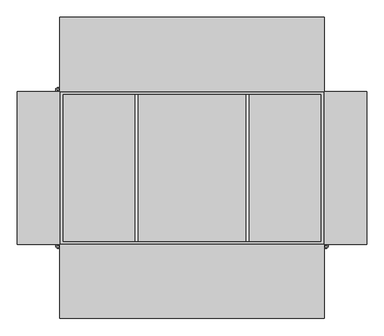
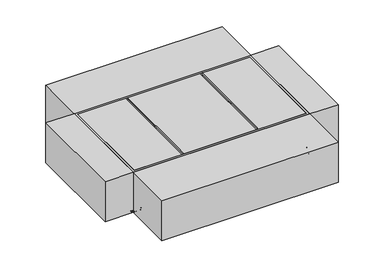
"""IFC4 building model written with IfcOpenShell, lengths in millimetres: proxy geometry, EMC_VEN_CLEVA 2.0_Right_V2 : CLEVA 3000 2.0 Right."""

from ifc_helpers import new_model, si_unit, frame, origin, origin_with_axes, place, context, project, spatial, polyline, circle_curve, ellipse_curve, outline, extrude, faceted_brep, source, transform, mapped, element, save
from ifc_brep_helpers import plane_surface, cylinder_surface, revolved_surface, advanced_brep


def mechanical_equipment_ccacce41(model_context):
    return source(origin(), model_context, "Body", "SolidModel", [
        advanced_brep(
        [(-1255.9879885, 610.1499884, 32.4276212), (-1274.1500152, 610.1499884, 32.4276212), (-1274.1500152, 610.1499884, 29.4276272), (-1255.9939883, 610.1499884, 29.4276272), (-1252.999994, 610.1499884, 26.4336329), (-1252.999994, 610.1499884, 2.850007), (-1246.9879811, 610.1499884, -3.149981), (-1223.0023908, 610.1499884, -3.149981), (-1223.0023908, 610.1499884, -0.149987), (-1247.9960038, 610.1499884, -0.149987), (-1250.0, 610.1499884, 1.8540092), (-1250.0, 610.1499884, 26.4156337), (-1286.1499912, 622.1499898, 29.4276272), (-1286.1499912, 622.1499898, 32.4276212), (-1286.1499912, 749.1499898, 32.4276212), (-1286.1499912, 749.1499898, 29.4276272), (-1135.1500138, 730.9879885, 32.4276212), (-1135.1500138, 749.1499898, 32.4276212), (-1147.1500152, 761.1499912, 32.4276212), (-1274.1500152, 761.1499912, 32.4276212), (-1255.9879885, 730.9879885, 32.4276212), (-1160.6500136, 752.6500082, 32.4276212), (-1155.6499982, 752.6500082, 32.4276212), (-1155.6619977, 740.6500068, 32.4276212), (-1160.6380141, 740.6500068, 32.4276212), (-1269.8972231, 748.4322052, 32.4276212), (-1261.4119618, 739.9469136, 32.4276212), (-1264.9515195, 736.4073559, 32.4276212), (-1273.4413867, 744.888067, 32.4276212), (-1265.6500068, 635.6379887, 32.4276212), (-1265.6500068, 630.6379987, 32.4276212), (-1277.6499948, 630.6499982, 32.4276212), (-1277.6500082, 635.6499882, 32.4276212), (-1250.0, 725.0, 26.4156337), (-1250.0, 725.0, 1.8540092), (-1247.9960038, 722.9960038, -0.149987), (-1223.0023908, 698.0023908, -0.149987), (-1135.1500138, 698.0023908, -0.149987), (-1135.1500138, 722.9960038, -0.149987), (-1223.0023908, 698.0023908, -3.149981), (-1246.9879811, 721.9879811, -3.149981), (-1135.1500138, 721.9879811, -3.149981), (-1135.1500138, 698.0023908, -3.149981), (-1252.9999806, 727.999994, 2.850007), (-1252.999994, 727.999994, 26.4336329), (-1255.9939883, 730.9939883, 29.4276272), (-1274.1500152, 761.1499912, 29.4276272), (-1147.1500152, 761.1499912, 29.4276272), (-1135.1500138, 749.1499898, 29.4276272), (-1135.1500138, 730.9939883, 29.4276272), (-1160.6380141, 740.6500068, 29.4276272), (-1155.6619977, 740.6500068, 29.4276272), (-1155.6499982, 752.6499948, 29.4276272), (-1160.6500136, 752.6500082, 29.4276272), (-1273.4413867, 744.888067, 29.4276272), (-1264.9515297, 736.4073661, 29.4276272), (-1261.4119618, 739.9469136, 29.4276272), (-1269.8972231, 748.4322052, 29.4276272), (-1277.6500082, 635.6499882, 29.4276272), (-1277.6500082, 630.6499982, 29.4276272), (-1265.6500068, 630.6379987, 29.4276272), (-1265.6500068, 635.6379887, 29.4276272), (-1135.1500138, 727.9999806, 2.850007), (-1135.1500138, 727.999994, 26.4336329), (-1135.1500138, 725.0, 26.4156337), (-1135.1500138, 725.0, 1.8540092)],
        [
            (0, 1),
            (1, 2),
            (2, 3),
            (3, 4, circle_curve(frame((-1255.999988, 610.1499884, 26.4276332), z_axis=(0.0, 1.0, 0.0), x_axis=(1.0, 0.0, 0.0)), 3.0)),
            (4, 5),
            (5, 6, circle_curve(frame((-1246.9999806, 610.1499884, 2.850007), z_axis=(0.0, -1.0, 0.0), x_axis=(1.0, 0.0, 0.0)), 6.0)),
            (6, 7),
            (7, 8),
            (8, 9),
            (9, 10, circle_curve(frame((-1248.000004, 610.1499884, 1.850009), z_axis=(0.0, 1.0, 0.0), x_axis=(1.0, 0.0, 0.0)), 2.0)),
            (10, 11),
            (11, 0, circle_curve(frame((-1255.999988, 610.1499884, 26.4276332), z_axis=(0.0, -1.0, 0.0), x_axis=(1.0, 0.0, 0.0)), 6.0)),
            (12, 13),
            (13, 14),
            (14, 15),
            (15, 12),
            (16, 17),
            (17, 18),
            (18, 19),
            (19, 14),
            (13, 1),
            (0, 20),
            (20, 16),
            (21, 22),
            (22, 23, circle_curve(frame((-1155.6499982, 746.6499948, 32.4276212), z_axis=(0.0, 0.0, -1.0), x_axis=(1.0, 0.0, 0.0)), 6.0)),
            (23, 24),
            (24, 21, circle_curve(frame((-1160.6500136, 746.6499948, 32.4276212), z_axis=(0.0, 0.0, -1.0), x_axis=(1.0, 0.0, 0.0)), 6.0)),
            (25, 26, circle_curve(frame((-1265.6500068, 744.194145, 32.4276212), z_axis=(0.0, 0.0, -1.0), x_axis=(1.0, 0.0, 0.0)), 6.0)),
            (26, 27),
            (27, 28, circle_curve(frame((-1269.1941704, 740.6500068, 32.4276212), z_axis=(0.0, 0.0, -1.0), x_axis=(1.0, 0.0, 0.0)), 6.0)),
            (28, 25),
            (29, 30),
            (30, 31, circle_curve(frame((-1271.6499948, 630.6499982, 32.4276212), z_axis=(0.0, 0.0, -1.0), x_axis=(1.0, 0.0, 0.0)), 6.0)),
            (31, 32),
            (32, 29, circle_curve(frame((-1271.6499948, 635.6499882, 32.4276212), z_axis=(0.0, 0.0, -1.0), x_axis=(1.0, 0.0, 0.0)), 6.0)),
            (11, 33),
            (33, 20, ellipse_curve(frame((-1255.999988, 730.999988, 26.4276332), z_axis=(-0.7071067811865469, -0.707106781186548, 0.0), x_axis=(0.7071067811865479, -0.7071067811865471, 0.0)), 8.4852814, 6.0)),
            (10, 34),
            (34, 33),
            (9, 35),
            (35, 34, ellipse_curve(frame((-1248.000004, 723.000004, 1.850009), z_axis=(0.7071067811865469, 0.707106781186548, 0.0), x_axis=(-0.7071067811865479, 0.7071067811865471, 0.0)), 2.8284271, 2.0)),
            (8, 36),
            (36, 37),
            (37, 38),
            (38, 35),
            (7, 39),
            (39, 36),
            (6, 40),
            (40, 41),
            (41, 42),
            (42, 39),
            (5, 43),
            (43, 40, ellipse_curve(frame((-1246.9999806, 721.9999806, 2.850007), z_axis=(-0.7071067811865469, -0.707106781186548, 0.0), x_axis=(0.7071067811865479, -0.7071067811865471, 0.0)), 8.4852814, 6.0)),
            (4, 44),
            (44, 43),
            (3, 45),
            (45, 44, ellipse_curve(frame((-1255.999988, 730.999988, 26.4276332), z_axis=(0.7071067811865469, 0.707106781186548, 0.0), x_axis=(-0.7071067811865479, 0.7071067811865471, 0.0)), 4.2426407, 3.0)),
            (2, 12),
            (15, 46),
            (46, 47),
            (47, 48),
            (48, 49),
            (49, 45),
            (50, 51),
            (51, 52, circle_curve(frame((-1155.6499982, 746.6499948, 29.4276272), z_axis=(0.0, 0.0, 1.0), x_axis=(1.0, 0.0, 0.0)), 6.0)),
            (52, 53),
            (53, 50, circle_curve(frame((-1160.6500136, 746.6499948, 29.4276272), z_axis=(0.0, 0.0, 1.0), x_axis=(1.0, 0.0, 0.0)), 6.0)),
            (54, 55, circle_curve(frame((-1269.1941704, 740.6500068, 29.4276272), z_axis=(0.0, 0.0, 1.0), x_axis=(1.0, 0.0, 0.0)), 6.0)),
            (55, 56),
            (56, 57, circle_curve(frame((-1265.6500068, 744.194145, 29.4276272), z_axis=(0.0, 0.0, 1.0), x_axis=(1.0, 0.0, 0.0)), 6.0)),
            (57, 54),
            (58, 59),
            (59, 60, circle_curve(frame((-1271.6499948, 630.6499982, 29.4276272), z_axis=(0.0, 0.0, 1.0), x_axis=(1.0, 0.0, 0.0)), 6.0)),
            (60, 61),
            (61, 58, circle_curve(frame((-1271.6499948, 635.6499882, 29.4276272), z_axis=(0.0, 0.0, 1.0), x_axis=(1.0, 0.0, 0.0)), 6.0)),
            (37, 42),
            (41, 62, circle_curve(frame((-1135.1500138, 721.9999806, 2.850007), z_axis=(1.0, 0.0, 0.0), x_axis=(0.0, -1.0, 0.0)), 6.0)),
            (62, 63),
            (63, 49, circle_curve(frame((-1135.1500138, 730.999988, 26.4276332), z_axis=(-1.0, 0.0, 0.0), x_axis=(0.0, -1.0, 0.0)), 3.0)),
            (48, 17),
            (16, 64, circle_curve(frame((-1135.1500138, 730.999988, 26.4276332), z_axis=(1.0, 0.0, 0.0), x_axis=(0.0, -1.0, 0.0)), 6.0)),
            (64, 65),
            (65, 38, circle_curve(frame((-1135.1500138, 723.000004, 1.850009), z_axis=(-1.0, 0.0, 0.0), x_axis=(0.0, -1.0, 0.0)), 2.0)),
            (18, 47),
            (46, 19),
            (33, 64),
            (34, 65),
            (43, 62),
            (44, 63),
            (53, 21),
            (24, 50),
            (52, 22),
            (51, 23),
            (57, 25),
            (28, 54),
            (56, 26),
            (55, 27),
            (61, 29),
            (32, 58),
            (60, 30),
            (59, 31),
        ],
        [
            plane_surface(frame((-1250.0, 610.1499884, 0.0), z_axis=(0.0, -1.0, 0.0), x_axis=(0.0, 0.0, 1.0))),
            plane_surface(frame((-1286.1499912, 610.1499884, 29.4276272), z_axis=(-1.0, 0.0, 0.0), x_axis=(0.0, 1.0, 0.0))),
            plane_surface(frame((-1286.1499912, 610.1499884, 32.4276212), z_axis=(0.0, 0.0, 1.0), x_axis=(0.0, 1.0, 0.0))),
            cylinder_surface(frame((-1255.999988, 610.1499884, 26.4276332), z_axis=(0.0, -1.0, 0.0), x_axis=(1.0, 0.0, 0.0)), 6.0),
            plane_surface(frame((-1250.0, 610.1499884, 26.4156337), z_axis=(1.0, 0.0, 0.0), x_axis=(0.0, 1.0, 0.0))),
            revolved_surface(polyline([(-1246.000004, 725.0000039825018, 1.850009), (-1246.000004, 610.1499884, 1.850009)]), (-1248.000004, 610.1499884, 1.850009), (0.0, 1.0, 0.0)),
            plane_surface(frame((-1247.9960038, 610.1499884, -0.149987), z_axis=(0.0, 0.0, 1.0), x_axis=(0.0, 1.0, 0.0))),
            plane_surface(frame((-1223.0023908, 610.1499884, -0.149987), z_axis=(1.0, 0.0, 0.0), x_axis=(0.0, 1.0, 0.0))),
            plane_surface(frame((-1223.0023908, 610.1499884, -3.149981), z_axis=(0.0, 0.0, -1.0), x_axis=(0.0, 1.0, 0.0))),
            cylinder_surface(frame((-1246.9999806, 610.1499884, 2.850007), z_axis=(0.0, -1.0, 0.0), x_axis=(1.0, 0.0, 0.0)), 6.0),
            plane_surface(frame((-1252.999994, 610.1499884, 2.850007), z_axis=(-1.0, 0.0, 0.0), x_axis=(0.0, 1.0, 0.0))),
            revolved_surface(polyline([(-1252.999988, 733.999988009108, 26.4276332), (-1252.999988, 610.1499884, 26.4276332)]), (-1255.999988, 610.1499884, 26.4276332), (0.0, 1.0, 0.0)),
            plane_surface(frame((-1255.9939883, 610.1499884, 29.4276272), z_axis=(0.0, 0.0, -1.0), x_axis=(0.0, 1.0, 0.0))),
            plane_surface(frame((-1135.1500138, 725.0, 0.0), z_axis=(1.0, 0.0, 0.0), x_axis=(0.0, 0.0, 1.0))),
            plane_surface(frame((-1286.1499912, 761.1499912, 29.4276272), z_axis=(0.0, 1.0, 0.0), x_axis=(1.0, 0.0, 0.0))),
            cylinder_surface(frame((-1250.0, 730.999988, 26.4276332), z_axis=(-1.0, 0.0, 0.0), x_axis=(0.0, -1.0, 0.0)), 6.0),
            plane_surface(frame((-1250.0, 725.0, 26.4156337), z_axis=(0.0, -1.0, 0.0), x_axis=(1.0, 0.0, 0.0))),
            revolved_surface(polyline([(-1135.1500138, 721.000004, 1.850009), (-1250.0000039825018, 721.000004, 1.850009)]), (-1250.0, 723.000004, 1.850009), (1.0, 0.0, 0.0)),
            plane_surface(frame((-1223.0023908, 698.0023908, -0.149987), z_axis=(0.0, -1.0, 0.0), x_axis=(1.0, 0.0, 0.0))),
            cylinder_surface(frame((-1250.0, 721.9999806, 2.850007), z_axis=(-1.0, 0.0, 0.0), x_axis=(0.0, -1.0, 0.0)), 6.0),
            plane_surface(frame((-1252.999994, 727.999994, 2.850007), z_axis=(0.0, 1.0, 0.0), x_axis=(1.0, 0.0, 0.0))),
            revolved_surface(polyline([(-1135.1500138, 727.999988, 26.4276332), (-1258.9999880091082, 727.999988, 26.4276332)]), (-1250.0, 730.999988, 26.4276332), (1.0, 0.0, 0.0)),
            plane_surface(frame((-1286.1499912, 622.1499898, 250.0), z_axis=(-0.7071075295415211, -0.7071060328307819, 0.0), x_axis=(0.0, 0.0, -1.0))),
            plane_surface(frame((-1123.432152, 737.432128, 250.0), z_axis=(0.7071067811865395, 0.7071067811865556, 0.0), x_axis=(0.0, 0.0, -1.0))),
            plane_surface(frame((-1274.1500152, 761.1499912, 250.0), z_axis=(-0.7071075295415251, 0.7071060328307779, 0.0), x_axis=(0.0, 0.0, -1.0))),
            revolved_surface(polyline([(-1154.6500136, 746.6499948, 32.4276212), (-1154.6500136, 746.6499948, 29.4276272)]), (-1160.6500136, 746.6499948, 0.0), (0.0, 0.0, 1.0)),
            plane_surface(frame((-1160.6500136, 752.6500082, 250.0), z_axis=(0.0, -1.0, 0.0), x_axis=(0.0, 0.0, -1.0))),
            revolved_surface(polyline([(-1149.6499982, 746.6499948, 32.4276212), (-1149.6499982, 746.6499948, 29.4276272)]), (-1155.6499982, 746.6499948, 0.0), (0.0, 0.0, 1.0)),
            plane_surface(frame((-1155.6619977, 740.6500068, 250.0), z_axis=(0.0, 1.0, 0.0), x_axis=(0.0, 0.0, -1.0))),
            plane_surface(frame((-1273.4413867, 744.888067, 250.0), z_axis=(0.7071042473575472, -0.7071093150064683, 0.0), x_axis=(0.0, 0.0, -1.0))),
            revolved_surface(polyline([(-1259.6500068, 744.194145, 32.4276212), (-1259.6500068, 744.194145, 29.4276272)]), (-1265.6500068, 744.194145, 0.0), (0.0, 0.0, 1.0)),
            plane_surface(frame((-1261.4119618, 739.9469136, 250.0), z_axis=(-0.7071067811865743, 0.7071067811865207, 0.0), x_axis=(0.0, 0.0, -1.0))),
            revolved_surface(polyline([(-1263.1941704, 740.6500068, 32.4276212), (-1263.1941704, 740.6500068, 29.4276272)]), (-1269.1941704, 740.6500068, 0.0), (0.0, 0.0, 1.0)),
            revolved_surface(polyline([(-1265.6499948, 635.6499882, 32.4276212), (-1265.6499948, 635.6499882, 29.4276272)]), (-1271.6499948, 635.6499882, 0.0), (0.0, 0.0, 1.0)),
            plane_surface(frame((-1265.6500068, 635.6379887, 250.0), z_axis=(-1.0, 0.0, 0.0), x_axis=(0.0, 0.0, -1.0))),
            revolved_surface(polyline([(-1265.6499948, 630.6499982, 32.4276212), (-1265.6499948, 630.6499982, 29.4276272)]), (-1271.6499948, 630.6499982, 0.0), (0.0, 0.0, 1.0)),
            plane_surface(frame((-1277.6500082, 630.6499982, 250.0), z_axis=(1.0, 0.0, 0.0), x_axis=(0.0, 0.0, -1.0))),
        ],
        [
            (0, [[1, 2, 3, 4, 5, 6, 7, 8, 9, 10, 11, 12]]),
            (1, [[13, 14, 15, 16]]),
            (2, [[17, 18, 19, 20, -14, 21, -1, 22, 23], [24, 25, 26, 27], [28, 29, 30, 31], [32, 33, 34, 35]]),
            (3, [[36, 37, -22, -12]]),
            (4, [[38, 39, -36, -11]]),
            (5, [[40, 41, -38, -10]]),
            (6, [[42, 43, 44, 45, -40, -9]]),
            (7, [[46, 47, -42, -8]]),
            (8, [[48, 49, 50, 51, -46, -7]]),
            (9, [[52, 53, -48, -6]]),
            (10, [[54, 55, -52, -5]]),
            (11, [[56, 57, -54, -4]]),
            (12, [[-3, 58, -16, 59, 60, 61, 62, 63, -56], [64, 65, 66, 67], [68, 69, 70, 71], [72, 73, 74, 75]]),
            (13, [[76, -50, 77, 78, 79, -62, 80, -17, 81, 82, 83, -44]]),
            (14, [[84, -60, 85, -19]]),
            (15, [[-37, 86, -81, -23]]),
            (16, [[87, -82, -86, -39]]),
            (17, [[-45, -83, -87, -41]]),
            (18, [[-47, -51, -76, -43]]),
            (19, [[-53, 88, -77, -49]]),
            (20, [[89, -78, -88, -55]]),
            (21, [[-63, -79, -89, -57]]),
            (22, [[-21, -13, -58, -2]]),
            (23, [[-80, -61, -84, -18]]),
            (24, [[-20, -85, -59, -15]]),
            (25, [[-67, 90, -27, 91]]),
            (26, [[-66, 92, -24, -90]]),
            (27, [[-65, 93, -25, -92]]),
            (28, [[-26, -93, -64, -91]]),
            (29, [[-71, 94, -31, 95]]),
            (30, [[-70, 96, -28, -94]]),
            (31, [[-69, 97, -29, -96]]),
            (32, [[-30, -97, -68, -95]]),
            (33, [[-75, 98, -35, 99]]),
            (34, [[-74, 100, -32, -98]]),
            (35, [[-73, 101, -33, -100]]),
            (36, [[-34, -101, -72, -99]]),
        ],
    ),
        advanced_brep(
        [(1255.9879885, -610.1499884, 32.4276212), (1274.1500152, -610.1499884, 32.4276212), (1274.1500152, -610.1499884, 29.4276272), (1255.9939883, -610.1499884, 29.4276272), (1252.999994, -610.1499884, 26.4336329), (1252.999994, -610.1499884, 2.850007), (1246.9879811, -610.1499884, -3.149981), (1223.0023908, -610.1499884, -3.149981), (1223.0023908, -610.1499884, -0.149987), (1247.9960038, -610.1499884, -0.149987), (1250.0, -610.1499884, 1.8540092), (1250.0, -610.1499884, 26.4156337), (1286.1499912, -622.1499898, 29.4276272), (1286.1499912, -622.1499898, 32.4276212), (1286.1499912, -749.1499898, 32.4276212), (1286.1499912, -749.1499898, 29.4276272), (1135.1500138, -730.9879885, 32.4276212), (1135.1500138, -749.1499898, 32.4276212), (1147.1500152, -761.1499912, 32.4276212), (1274.1500152, -761.1499912, 32.4276212), (1255.9879885, -730.9879885, 32.4276212), (1160.6500136, -752.6500082, 32.4276212), (1155.6499982, -752.6500082, 32.4276212), (1155.6619977, -740.6500068, 32.4276212), (1160.6380141, -740.6500068, 32.4276212), (1269.8972231, -748.4322052, 32.4276212), (1261.4119618, -739.9469136, 32.4276212), (1264.9515195, -736.4073559, 32.4276212), (1273.4413867, -744.888067, 32.4276212), (1265.6500068, -635.6379887, 32.4276212), (1265.6500068, -630.6379987, 32.4276212), (1277.6499948, -630.6499982, 32.4276212), (1277.6500082, -635.6499882, 32.4276212), (1250.0, -725.0, 26.4156337), (1250.0, -725.0, 1.8540092), (1247.9960038, -722.9960038, -0.149987), (1223.0023908, -698.0023908, -0.149987), (1135.1500138, -698.0023908, -0.149987), (1135.1500138, -722.9960038, -0.149987), (1223.0023908, -698.0023908, -3.149981), (1246.9879811, -721.9879811, -3.149981), (1135.1500138, -721.9879811, -3.149981), (1135.1500138, -698.0023908, -3.149981), (1252.9999806, -727.999994, 2.850007), (1252.999994, -727.999994, 26.4336329), (1255.9939883, -730.9939883, 29.4276272), (1274.1500152, -761.1499912, 29.4276272), (1147.1500152, -761.1499912, 29.4276272), (1135.1500138, -749.1499898, 29.4276272), (1135.1500138, -730.9939883, 29.4276272), (1160.6380141, -740.6500068, 29.4276272), (1155.6619977, -740.6500068, 29.4276272), (1155.6499982, -752.6499948, 29.4276272), (1160.6500136, -752.6500082, 29.4276272), (1273.4413867, -744.888067, 29.4276272), (1264.9515297, -736.4073661, 29.4276272), (1261.4119618, -739.9469136, 29.4276272), (1269.8972231, -748.4322052, 29.4276272), (1277.6500082, -635.6499882, 29.4276272), (1277.6500082, -630.6499982, 29.4276272), (1265.6500068, -630.6379987, 29.4276272), (1265.6500068, -635.6379887, 29.4276272), (1135.1500138, -727.9999806, 2.850007), (1135.1500138, -727.999994, 26.4336329), (1135.1500138, -725.0, 26.4156337), (1135.1500138, -725.0, 1.8540092)],
        [
            (0, 1),
            (1, 2),
            (2, 3),
            (3, 4, circle_curve(frame((1255.999988, -610.1499884, 26.4276332), z_axis=(0.0, -1.0, 0.0), x_axis=(-1.0, 0.0, 0.0)), 3.0)),
            (4, 5),
            (5, 6, circle_curve(frame((1246.9999806, -610.1499884, 2.850007), z_axis=(0.0, 1.0, 0.0), x_axis=(-1.0, 0.0, 0.0)), 6.0)),
            (6, 7),
            (7, 8),
            (8, 9),
            (9, 10, circle_curve(frame((1248.000004, -610.1499884, 1.850009), z_axis=(0.0, -1.0, 0.0), x_axis=(-1.0, 0.0, 0.0)), 2.0)),
            (10, 11),
            (11, 0, circle_curve(frame((1255.999988, -610.1499884, 26.4276332), z_axis=(0.0, 1.0, 0.0), x_axis=(-1.0, 0.0, 0.0)), 6.0)),
            (12, 13),
            (13, 14),
            (14, 15),
            (15, 12),
            (16, 17),
            (17, 18),
            (18, 19),
            (19, 14),
            (13, 1),
            (0, 20),
            (20, 16),
            (21, 22),
            (22, 23, circle_curve(frame((1155.6499982, -746.6499948, 32.4276212), z_axis=(0.0, 0.0, -1.0), x_axis=(-1.0, 0.0, 0.0)), 6.0)),
            (23, 24),
            (24, 21, circle_curve(frame((1160.6500136, -746.6499948, 32.4276212), z_axis=(0.0, 0.0, -1.0), x_axis=(-1.0, 0.0, 0.0)), 6.0)),
            (25, 26, circle_curve(frame((1265.6500068, -744.194145, 32.4276212), z_axis=(0.0, 0.0, -1.0), x_axis=(-1.0, 0.0, 0.0)), 6.0)),
            (26, 27),
            (27, 28, circle_curve(frame((1269.1941704, -740.6500068, 32.4276212), z_axis=(0.0, 0.0, -1.0), x_axis=(-1.0, 0.0, 0.0)), 6.0)),
            (28, 25),
            (29, 30),
            (30, 31, circle_curve(frame((1271.6499948, -630.6499982, 32.4276212), z_axis=(0.0, 0.0, -1.0), x_axis=(-1.0, 0.0, 0.0)), 6.0)),
            (31, 32),
            (32, 29, circle_curve(frame((1271.6499948, -635.6499882, 32.4276212), z_axis=(0.0, 0.0, -1.0), x_axis=(-1.0, 0.0, 0.0)), 6.0)),
            (11, 33),
            (33, 20, ellipse_curve(frame((1255.999988, -730.999988, 26.4276332), z_axis=(0.7071067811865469, 0.707106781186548, 0.0), x_axis=(-0.7071067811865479, 0.7071067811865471, 0.0)), 8.4852814, 6.0)),
            (10, 34),
            (34, 33),
            (9, 35),
            (35, 34, ellipse_curve(frame((1248.000004, -723.000004, 1.850009), z_axis=(-0.7071067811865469, -0.707106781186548, 0.0), x_axis=(0.7071067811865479, -0.7071067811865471, 0.0)), 2.8284271, 2.0)),
            (8, 36),
            (36, 37),
            (37, 38),
            (38, 35),
            (7, 39),
            (39, 36),
            (6, 40),
            (40, 41),
            (41, 42),
            (42, 39),
            (5, 43),
            (43, 40, ellipse_curve(frame((1246.9999806, -721.9999806, 2.850007), z_axis=(0.7071067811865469, 0.707106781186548, 0.0), x_axis=(-0.7071067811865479, 0.7071067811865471, 0.0)), 8.4852814, 6.0)),
            (4, 44),
            (44, 43),
            (3, 45),
            (45, 44, ellipse_curve(frame((1255.999988, -730.999988, 26.4276332), z_axis=(-0.7071067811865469, -0.707106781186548, 0.0), x_axis=(0.7071067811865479, -0.7071067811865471, 0.0)), 4.2426407, 3.0)),
            (2, 12),
            (15, 46),
            (46, 47),
            (47, 48),
            (48, 49),
            (49, 45),
            (50, 51),
            (51, 52, circle_curve(frame((1155.6499982, -746.6499948, 29.4276272), z_axis=(0.0, 0.0, 1.0), x_axis=(-1.0, 0.0, 0.0)), 6.0)),
            (52, 53),
            (53, 50, circle_curve(frame((1160.6500136, -746.6499948, 29.4276272), z_axis=(0.0, 0.0, 1.0), x_axis=(-1.0, 0.0, 0.0)), 6.0)),
            (54, 55, circle_curve(frame((1269.1941704, -740.6500068, 29.4276272), z_axis=(0.0, 0.0, 1.0), x_axis=(-1.0, 0.0, 0.0)), 6.0)),
            (55, 56),
            (56, 57, circle_curve(frame((1265.6500068, -744.194145, 29.4276272), z_axis=(0.0, 0.0, 1.0), x_axis=(-1.0, 0.0, 0.0)), 6.0)),
            (57, 54),
            (58, 59),
            (59, 60, circle_curve(frame((1271.6499948, -630.6499982, 29.4276272), z_axis=(0.0, 0.0, 1.0), x_axis=(-1.0, 0.0, 0.0)), 6.0)),
            (60, 61),
            (61, 58, circle_curve(frame((1271.6499948, -635.6499882, 29.4276272), z_axis=(0.0, 0.0, 1.0), x_axis=(-1.0, 0.0, 0.0)), 6.0)),
            (37, 42),
            (41, 62, circle_curve(frame((1135.1500138, -721.9999806, 2.850007), z_axis=(-1.0, 0.0, 0.0), x_axis=(0.0, 1.0, 0.0)), 6.0)),
            (62, 63),
            (63, 49, circle_curve(frame((1135.1500138, -730.999988, 26.4276332), z_axis=(1.0, 0.0, 0.0), x_axis=(0.0, 1.0, 0.0)), 3.0)),
            (48, 17),
            (16, 64, circle_curve(frame((1135.1500138, -730.999988, 26.4276332), z_axis=(-1.0, 0.0, 0.0), x_axis=(0.0, 1.0, 0.0)), 6.0)),
            (64, 65),
            (65, 38, circle_curve(frame((1135.1500138, -723.000004, 1.850009), z_axis=(1.0, 0.0, 0.0), x_axis=(0.0, 1.0, 0.0)), 2.0)),
            (18, 47),
            (46, 19),
            (33, 64),
            (34, 65),
            (43, 62),
            (44, 63),
            (53, 21),
            (24, 50),
            (52, 22),
            (51, 23),
            (57, 25),
            (28, 54),
            (56, 26),
            (55, 27),
            (61, 29),
            (32, 58),
            (60, 30),
            (59, 31),
        ],
        [
            plane_surface(frame((1250.0, -610.1499884, 0.0), z_axis=(0.0, 1.0, 0.0), x_axis=(0.0, 0.0, 1.0))),
            plane_surface(frame((1286.1499912, -610.1499884, 29.4276272), z_axis=(1.0, 0.0, 0.0), x_axis=(0.0, -1.0, 0.0))),
            plane_surface(frame((1286.1499912, -610.1499884, 32.4276212), z_axis=(0.0, 0.0, 1.0), x_axis=(0.0, -1.0, 0.0))),
            cylinder_surface(frame((1255.999988, -610.1499884, 26.4276332), z_axis=(0.0, 1.0, 0.0), x_axis=(-1.0, 0.0, 0.0)), 6.0),
            plane_surface(frame((1250.0, -610.1499884, 26.4156337), z_axis=(-1.0, 0.0, 0.0), x_axis=(0.0, -1.0, 0.0))),
            revolved_surface(polyline([(1246.000004, -725.0000039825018, 1.850009), (1246.000004, -610.1499884, 1.850009)]), (1248.000004, -610.1499884, 1.850009), (0.0, -1.0, 0.0)),
            plane_surface(frame((1247.9960038, -610.1499884, -0.149987), z_axis=(0.0, 0.0, 1.0), x_axis=(0.0, -1.0, 0.0))),
            plane_surface(frame((1223.0023908, -610.1499884, -0.149987), z_axis=(-1.0, 0.0, 0.0), x_axis=(0.0, -1.0, 0.0))),
            plane_surface(frame((1223.0023908, -610.1499884, -3.149981), z_axis=(0.0, 0.0, -1.0), x_axis=(0.0, -1.0, 0.0))),
            cylinder_surface(frame((1246.9999806, -610.1499884, 2.850007), z_axis=(0.0, 1.0, 0.0), x_axis=(-1.0, 0.0, 0.0)), 6.0),
            plane_surface(frame((1252.999994, -610.1499884, 2.850007), z_axis=(1.0, 0.0, 0.0), x_axis=(0.0, -1.0, 0.0))),
            revolved_surface(polyline([(1252.999988, -733.999988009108, 26.4276332), (1252.999988, -610.1499884, 26.4276332)]), (1255.999988, -610.1499884, 26.4276332), (0.0, -1.0, 0.0)),
            plane_surface(frame((1255.9939883, -610.1499884, 29.4276272), z_axis=(0.0, 0.0, -1.0), x_axis=(0.0, -1.0, 0.0))),
            plane_surface(frame((1135.1500138, -725.0, 0.0), z_axis=(-1.0, 0.0, 0.0), x_axis=(0.0, 0.0, 1.0))),
            plane_surface(frame((1286.1499912, -761.1499912, 29.4276272), z_axis=(0.0, -1.0, 0.0), x_axis=(-1.0, 0.0, 0.0))),
            cylinder_surface(frame((1250.0, -730.999988, 26.4276332), z_axis=(1.0, 0.0, 0.0), x_axis=(0.0, 1.0, 0.0)), 6.0),
            plane_surface(frame((1250.0, -725.0, 26.4156337), z_axis=(0.0, 1.0, 0.0), x_axis=(-1.0, 0.0, 0.0))),
            revolved_surface(polyline([(1135.1500138, -721.000004, 1.850009), (1250.0000039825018, -721.000004, 1.850009)]), (1250.0, -723.000004, 1.850009), (-1.0, 0.0, 0.0)),
            plane_surface(frame((1223.0023908, -698.0023908, -0.149987), z_axis=(0.0, 1.0, 0.0), x_axis=(-1.0, 0.0, 0.0))),
            cylinder_surface(frame((1250.0, -721.9999806, 2.850007), z_axis=(1.0, 0.0, 0.0), x_axis=(0.0, 1.0, 0.0)), 6.0),
            plane_surface(frame((1252.999994, -727.999994, 2.850007), z_axis=(0.0, -1.0, 0.0), x_axis=(-1.0, 0.0, 0.0))),
            revolved_surface(polyline([(1135.1500138, -727.999988, 26.4276332), (1258.9999880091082, -727.999988, 26.4276332)]), (1250.0, -730.999988, 26.4276332), (-1.0, 0.0, 0.0)),
            plane_surface(frame((1286.1499912, -622.1499898, 250.0), z_axis=(0.7071075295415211, 0.7071060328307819, 0.0), x_axis=(0.0, 0.0, -1.0))),
            plane_surface(frame((1123.432152, -737.432128, 250.0), z_axis=(-0.7071067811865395, -0.7071067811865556, 0.0), x_axis=(0.0, 0.0, -1.0))),
            plane_surface(frame((1274.1500152, -761.1499912, 250.0), z_axis=(0.7071075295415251, -0.7071060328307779, 0.0), x_axis=(0.0, 0.0, -1.0))),
            revolved_surface(polyline([(1154.6500136, -746.6499948, 32.4276212), (1154.6500136, -746.6499948, 29.4276272)]), (1160.6500136, -746.6499948, 0.0), (0.0, 0.0, 1.0)),
            plane_surface(frame((1160.6500136, -752.6500082, 250.0), z_axis=(0.0, 1.0, 0.0), x_axis=(0.0, 0.0, -1.0))),
            revolved_surface(polyline([(1149.6499982, -746.6499948, 32.4276212), (1149.6499982, -746.6499948, 29.4276272)]), (1155.6499982, -746.6499948, 0.0), (0.0, 0.0, 1.0)),
            plane_surface(frame((1155.6619977, -740.6500068, 250.0), z_axis=(0.0, -1.0, 0.0), x_axis=(0.0, 0.0, -1.0))),
            plane_surface(frame((1273.4413867, -744.888067, 250.0), z_axis=(-0.7071042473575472, 0.7071093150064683, 0.0), x_axis=(0.0, 0.0, -1.0))),
            revolved_surface(polyline([(1259.6500068, -744.194145, 32.4276212), (1259.6500068, -744.194145, 29.4276272)]), (1265.6500068, -744.194145, 0.0), (0.0, 0.0, 1.0)),
            plane_surface(frame((1261.4119618, -739.9469136, 250.0), z_axis=(0.7071067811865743, -0.7071067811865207, 0.0), x_axis=(0.0, 0.0, -1.0))),
            revolved_surface(polyline([(1263.1941704, -740.6500068, 32.4276212), (1263.1941704, -740.6500068, 29.4276272)]), (1269.1941704, -740.6500068, 0.0), (0.0, 0.0, 1.0)),
            revolved_surface(polyline([(1265.6499948, -635.6499882, 32.4276212), (1265.6499948, -635.6499882, 29.4276272)]), (1271.6499948, -635.6499882, 0.0), (0.0, 0.0, 1.0)),
            plane_surface(frame((1265.6500068, -635.6379887, 250.0), z_axis=(1.0, 0.0, 0.0), x_axis=(0.0, 0.0, -1.0))),
            revolved_surface(polyline([(1265.6499948, -630.6499982, 32.4276212), (1265.6499948, -630.6499982, 29.4276272)]), (1271.6499948, -630.6499982, 0.0), (0.0, 0.0, 1.0)),
            plane_surface(frame((1277.6500082, -630.6499982, 250.0), z_axis=(-1.0, 0.0, 0.0), x_axis=(0.0, 0.0, -1.0))),
        ],
        [
            (0, [[1, 2, 3, 4, 5, 6, 7, 8, 9, 10, 11, 12]]),
            (1, [[13, 14, 15, 16]]),
            (2, [[17, 18, 19, 20, -14, 21, -1, 22, 23], [24, 25, 26, 27], [28, 29, 30, 31], [32, 33, 34, 35]]),
            (3, [[36, 37, -22, -12]]),
            (4, [[38, 39, -36, -11]]),
            (5, [[40, 41, -38, -10]]),
            (6, [[42, 43, 44, 45, -40, -9]]),
            (7, [[46, 47, -42, -8]]),
            (8, [[48, 49, 50, 51, -46, -7]]),
            (9, [[52, 53, -48, -6]]),
            (10, [[54, 55, -52, -5]]),
            (11, [[56, 57, -54, -4]]),
            (12, [[-3, 58, -16, 59, 60, 61, 62, 63, -56], [64, 65, 66, 67], [68, 69, 70, 71], [72, 73, 74, 75]]),
            (13, [[76, -50, 77, 78, 79, -62, 80, -17, 81, 82, 83, -44]]),
            (14, [[84, -60, 85, -19]]),
            (15, [[-37, 86, -81, -23]]),
            (16, [[87, -82, -86, -39]]),
            (17, [[-45, -83, -87, -41]]),
            (18, [[-47, -51, -76, -43]]),
            (19, [[-53, 88, -77, -49]]),
            (20, [[89, -78, -88, -55]]),
            (21, [[-63, -79, -89, -57]]),
            (22, [[-21, -13, -58, -2]]),
            (23, [[-80, -61, -84, -18]]),
            (24, [[-20, -85, -59, -15]]),
            (25, [[-67, 90, -27, 91]]),
            (26, [[-66, 92, -24, -90]]),
            (27, [[-65, 93, -25, -92]]),
            (28, [[-26, -93, -64, -91]]),
            (29, [[-71, 94, -31, 95]]),
            (30, [[-70, 96, -28, -94]]),
            (31, [[-69, 97, -29, -96]]),
            (32, [[-30, -97, -68, -95]]),
            (33, [[-75, 98, -35, 99]]),
            (34, [[-74, 100, -32, -98]]),
            (35, [[-73, 101, -33, -100]]),
            (36, [[-34, -101, -72, -99]]),
        ],
    ),
        advanced_brep(
        [(-1255.9879885, -610.1499884, 32.4276212), (-1250.0, -610.1499884, 26.4156337), (-1250.0, -610.1499884, 1.8540092), (-1247.9960038, -610.1499884, -0.149987), (-1223.0023908, -610.1499884, -0.149987), (-1223.0023908, -610.1499884, -3.149981), (-1246.9879811, -610.1499884, -3.149981), (-1252.9999806, -610.1499884, 2.850007), (-1252.999994, -610.1499884, 26.4336329), (-1255.9939883, -610.1499884, 29.4276272), (-1274.1500152, -610.1499884, 29.4276272), (-1274.1500152, -610.1499884, 32.4276212), (-1286.1499912, -622.1499898, 29.4276272), (-1286.1499912, -749.1499898, 29.4276272), (-1286.1499912, -749.1499898, 32.4276212), (-1286.1499912, -622.1499898, 32.4276212), (-1135.1500138, -730.9879885, 32.4276212), (-1255.9879885, -730.9879885, 32.4276212), (-1274.1500152, -761.1499912, 32.4276212), (-1147.1500152, -761.1499912, 32.4276212), (-1135.1500138, -749.1499898, 32.4276212), (-1160.6500136, -752.6499948, 32.4276212), (-1160.6380141, -740.6500068, 32.4276212), (-1155.6619977, -740.6500068, 32.4276212), (-1155.6499982, -752.6499948, 32.4276212), (-1269.8972231, -748.4322052, 32.4276212), (-1273.4413867, -744.888067, 32.4276212), (-1264.9515297, -736.4073661, 32.4276212), (-1261.4119618, -739.9469136, 32.4276212), (-1265.6500068, -635.6379887, 32.4276212), (-1277.6499948, -635.6499882, 32.4276212), (-1277.6500082, -630.6499982, 32.4276212), (-1265.6500068, -630.6379987, 32.4276212), (-1250.0, -725.0, 26.4156337), (-1250.0, -725.0, 1.8540092), (-1247.9960038, -722.9960038, -0.149987), (-1135.1500138, -722.9960038, -0.149987), (-1135.1500138, -698.0023908, -0.149987), (-1223.0023908, -698.0023908, -0.149987), (-1223.0023908, -698.0023908, -3.149981), (-1135.1500138, -698.0023908, -3.149981), (-1135.1500138, -721.9879811, -3.149981), (-1246.9879811, -721.9879811, -3.149981), (-1252.9999806, -727.9999806, 2.850007), (-1252.999994, -727.999994, 26.4336329), (-1255.9939883, -730.9939883, 29.4276272), (-1135.1500138, -730.9939883, 29.4276272), (-1135.1500138, -749.1499898, 29.4276272), (-1147.1500152, -761.1499912, 29.4276272), (-1274.1500152, -761.1499912, 29.4276272), (-1160.6380141, -740.6500068, 29.4276272), (-1160.6500136, -752.6499948, 29.4276272), (-1155.6499982, -752.6500082, 29.4276272), (-1155.6619977, -740.6500068, 29.4276272), (-1273.4413867, -744.888067, 29.4276272), (-1269.8972231, -748.4322052, 29.4276272), (-1261.4119618, -739.9469136, 29.4276272), (-1264.9515195, -736.4073559, 29.4276272), (-1277.6499948, -635.6499882, 29.4276272), (-1265.6500068, -635.6379887, 29.4276272), (-1265.6500068, -630.6379987, 29.4276272), (-1277.6499948, -630.6499982, 29.4276272), (-1135.1500138, -725.0, 1.8540092), (-1135.1500138, -725.0, 26.4156337), (-1135.1500138, -727.999994, 26.4336329), (-1135.1500138, -727.999994, 2.850007)],
        [
            (0, 1, circle_curve(frame((-1255.999988, -610.1499884, 26.4276332), z_axis=(0.0, 1.0, 0.0), x_axis=(1.0, 0.0, 0.0)), 6.0)),
            (1, 2),
            (2, 3, circle_curve(frame((-1248.000004, -610.1499884, 1.850009), z_axis=(0.0, -1.0, 0.0), x_axis=(1.0, 0.0, 0.0)), 2.0)),
            (3, 4),
            (4, 5),
            (5, 6),
            (6, 7, circle_curve(frame((-1246.9999806, -610.1499884, 2.850007), z_axis=(0.0, 1.0, 0.0), x_axis=(1.0, 0.0, 0.0)), 6.0)),
            (7, 8),
            (8, 9, circle_curve(frame((-1255.999988, -610.1499884, 26.4276332), z_axis=(0.0, -1.0, 0.0), x_axis=(1.0, 0.0, 0.0)), 3.0)),
            (9, 10),
            (10, 11),
            (11, 0),
            (12, 13),
            (13, 14),
            (14, 15),
            (15, 12),
            (16, 17),
            (17, 0),
            (11, 15),
            (14, 18),
            (18, 19),
            (19, 20),
            (20, 16),
            (21, 22, circle_curve(frame((-1160.6500136, -746.6499948, 32.4276212), z_axis=(0.0, 0.0, -1.0), x_axis=(1.0, 0.0, 0.0)), 6.0)),
            (22, 23),
            (23, 24, circle_curve(frame((-1155.6499982, -746.6499948, 32.4276212), z_axis=(0.0, 0.0, -1.0), x_axis=(1.0, 0.0, 0.0)), 6.0)),
            (24, 21),
            (25, 26),
            (26, 27, circle_curve(frame((-1269.1941704, -740.6500068, 32.4276212), z_axis=(0.0, 0.0, -1.0), x_axis=(1.0, 0.0, 0.0)), 6.0)),
            (27, 28),
            (28, 25, circle_curve(frame((-1265.6500068, -744.194145, 32.4276212), z_axis=(0.0, 0.0, -1.0), x_axis=(1.0, 0.0, 0.0)), 6.0)),
            (29, 30, circle_curve(frame((-1271.6499948, -635.6499882, 32.4276212), z_axis=(0.0, 0.0, -1.0), x_axis=(1.0, 0.0, 0.0)), 6.0)),
            (30, 31),
            (31, 32, circle_curve(frame((-1271.6499948, -630.6499982, 32.4276212), z_axis=(0.0, 0.0, -1.0), x_axis=(1.0, 0.0, 0.0)), 6.0)),
            (32, 29),
            (17, 33, ellipse_curve(frame((-1255.999988, -730.999988, 26.4276332), z_axis=(-0.7071067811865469, 0.707106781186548, 0.0), x_axis=(0.7071067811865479, 0.7071067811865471, 0.0)), 8.4852814, 6.0)),
            (33, 1),
            (33, 34),
            (34, 2),
            (34, 35, ellipse_curve(frame((-1248.000004, -723.000004, 1.850009), z_axis=(0.7071067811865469, -0.707106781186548, 0.0), x_axis=(-0.7071067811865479, -0.7071067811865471, 0.0)), 2.8284271, 2.0)),
            (35, 3),
            (35, 36),
            (36, 37),
            (37, 38),
            (38, 4),
            (38, 39),
            (39, 5),
            (39, 40),
            (40, 41),
            (41, 42),
            (42, 6),
            (42, 43, ellipse_curve(frame((-1246.9999806, -721.9999806, 2.850007), z_axis=(-0.7071067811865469, 0.707106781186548, 0.0), x_axis=(0.7071067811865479, 0.7071067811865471, 0.0)), 8.4852814, 6.0)),
            (43, 7),
            (43, 44),
            (44, 8),
            (44, 45, ellipse_curve(frame((-1255.999988, -730.999988, 26.4276332), z_axis=(0.7071067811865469, -0.707106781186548, 0.0), x_axis=(-0.7071067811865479, -0.7071067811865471, 0.0)), 4.2426407, 3.0)),
            (45, 9),
            (45, 46),
            (46, 47),
            (47, 48),
            (48, 49),
            (49, 13),
            (12, 10),
            (50, 51, circle_curve(frame((-1160.6500136, -746.6499948, 29.4276272), z_axis=(0.0, 0.0, 1.0), x_axis=(1.0, 0.0, 0.0)), 6.0)),
            (51, 52),
            (52, 53, circle_curve(frame((-1155.6499982, -746.6499948, 29.4276272), z_axis=(0.0, 0.0, 1.0), x_axis=(1.0, 0.0, 0.0)), 6.0)),
            (53, 50),
            (54, 55),
            (55, 56, circle_curve(frame((-1265.6500068, -744.194145, 29.4276272), z_axis=(0.0, 0.0, 1.0), x_axis=(1.0, 0.0, 0.0)), 6.0)),
            (56, 57),
            (57, 54, circle_curve(frame((-1269.1941704, -740.6500068, 29.4276272), z_axis=(0.0, 0.0, 1.0), x_axis=(1.0, 0.0, 0.0)), 6.0)),
            (58, 59, circle_curve(frame((-1271.6499948, -635.6499882, 29.4276272), z_axis=(0.0, 0.0, 1.0), x_axis=(1.0, 0.0, 0.0)), 6.0)),
            (59, 60),
            (60, 61, circle_curve(frame((-1271.6499948, -630.6499982, 29.4276272), z_axis=(0.0, 0.0, 1.0), x_axis=(1.0, 0.0, 0.0)), 6.0)),
            (61, 58),
            (36, 62, circle_curve(frame((-1135.1500138, -723.000004, 1.850009), z_axis=(-1.0, 0.0, 0.0), x_axis=(0.0, 1.0, 0.0)), 2.0)),
            (62, 63),
            (63, 16, circle_curve(frame((-1135.1500138, -730.999988, 26.4276332), z_axis=(1.0, 0.0, 0.0), x_axis=(0.0, 1.0, 0.0)), 6.0)),
            (20, 47),
            (46, 64, circle_curve(frame((-1135.1500138, -730.999988, 26.4276332), z_axis=(-1.0, 0.0, 0.0), x_axis=(0.0, 1.0, 0.0)), 3.0)),
            (64, 65),
            (65, 41, circle_curve(frame((-1135.1500138, -721.9999806, 2.850007), z_axis=(1.0, 0.0, 0.0), x_axis=(0.0, 1.0, 0.0)), 6.0)),
            (40, 37),
            (18, 49),
            (48, 19),
            (63, 33),
            (62, 34),
            (65, 43),
            (64, 44),
            (50, 22),
            (21, 51),
            (24, 52),
            (23, 53),
            (54, 26),
            (25, 55),
            (28, 56),
            (27, 57),
            (58, 30),
            (29, 59),
            (32, 60),
            (31, 61),
        ],
        [
            plane_surface(frame((-1250.0, -610.1499884, 0.0), z_axis=(0.0, 1.0, 0.0), x_axis=(0.0, 0.0, 1.0))),
            plane_surface(frame((-1286.1499912, -610.1499884, 29.4276272), z_axis=(-1.0, 0.0, 0.0), x_axis=(0.0, -1.0, 0.0))),
            plane_surface(frame((-1286.1499912, -610.1499884, 32.4276212), z_axis=(0.0, 0.0, 1.0), x_axis=(0.0, -1.0, 0.0))),
            cylinder_surface(frame((-1255.999988, -610.1499884, 26.4276332), z_axis=(0.0, 1.0, 0.0), x_axis=(1.0, 0.0, 0.0)), 6.0),
            plane_surface(frame((-1250.0, -610.1499884, 26.4156337), z_axis=(1.0, 0.0, 0.0), x_axis=(0.0, -1.0, 0.0))),
            revolved_surface(polyline([(-1246.000004, -725.0000039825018, 1.850009), (-1246.000004, -610.1499884, 1.850009)]), (-1248.000004, -610.1499884, 1.850009), (0.0, -1.0, 0.0)),
            plane_surface(frame((-1247.9960038, -610.1499884, -0.149987), z_axis=(0.0, 0.0, 1.0), x_axis=(0.0, -1.0, 0.0))),
            plane_surface(frame((-1223.0023908, -610.1499884, -0.149987), z_axis=(1.0, 0.0, 0.0), x_axis=(0.0, -1.0, 0.0))),
            plane_surface(frame((-1223.0023908, -610.1499884, -3.149981), z_axis=(0.0, 0.0, -1.0), x_axis=(0.0, -1.0, 0.0))),
            cylinder_surface(frame((-1246.9999806, -610.1499884, 2.850007), z_axis=(0.0, 1.0, 0.0), x_axis=(1.0, 0.0, 0.0)), 6.0),
            plane_surface(frame((-1252.999994, -610.1499884, 2.850007), z_axis=(-1.0, 0.0, 0.0), x_axis=(0.0, -1.0, 0.0))),
            revolved_surface(polyline([(-1252.999988, -733.999988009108, 26.4276332), (-1252.999988, -610.1499884, 26.4276332)]), (-1255.999988, -610.1499884, 26.4276332), (0.0, -1.0, 0.0)),
            plane_surface(frame((-1255.9939883, -610.1499884, 29.4276272), z_axis=(0.0, 0.0, -1.0), x_axis=(0.0, -1.0, 0.0))),
            plane_surface(frame((-1135.1500138, -725.0, 0.0), z_axis=(1.0, 0.0, 0.0), x_axis=(0.0, 0.0, 1.0))),
            plane_surface(frame((-1286.1499912, -761.1499912, 29.4276272), z_axis=(0.0, -1.0, 0.0), x_axis=(1.0, 0.0, 0.0))),
            cylinder_surface(frame((-1250.0, -730.999988, 26.4276332), z_axis=(-1.0, 0.0, 0.0), x_axis=(0.0, 1.0, 0.0)), 6.0),
            plane_surface(frame((-1250.0, -725.0, 26.4156337), z_axis=(0.0, 1.0, 0.0), x_axis=(1.0, 0.0, 0.0))),
            revolved_surface(polyline([(-1135.1500138, -721.000004, 1.850009), (-1250.0000039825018, -721.000004, 1.850009)]), (-1250.0, -723.000004, 1.850009), (1.0, 0.0, 0.0)),
            plane_surface(frame((-1223.0023908, -698.0023908, -0.149987), z_axis=(0.0, 1.0, 0.0), x_axis=(1.0, 0.0, 0.0))),
            cylinder_surface(frame((-1250.0, -721.9999806, 2.850007), z_axis=(-1.0, 0.0, 0.0), x_axis=(0.0, 1.0, 0.0)), 6.0),
            plane_surface(frame((-1252.999994, -727.999994, 2.850007), z_axis=(0.0, -1.0, 0.0), x_axis=(1.0, 0.0, 0.0))),
            revolved_surface(polyline([(-1135.1500138, -727.999988, 26.4276332), (-1258.9999880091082, -727.999988, 26.4276332)]), (-1250.0, -730.999988, 26.4276332), (1.0, 0.0, 0.0)),
            plane_surface(frame((-1286.1499912, -622.1499898, 250.0), z_axis=(-0.7071075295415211, 0.7071060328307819, 0.0), x_axis=(0.0, 0.0, -1.0))),
            plane_surface(frame((-1123.432152, -737.432128, 250.0), z_axis=(0.7071067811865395, -0.7071067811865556, 0.0), x_axis=(0.0, 0.0, -1.0))),
            plane_surface(frame((-1274.1500152, -761.1499912, 250.0), z_axis=(-0.7071075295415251, -0.7071060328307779, 0.0), x_axis=(0.0, 0.0, -1.0))),
            revolved_surface(polyline([(-1154.6500136, -746.6499948, 32.4276212), (-1154.6500136, -746.6499948, 29.4276272)]), (-1160.6500136, -746.6499948, 0.0), (0.0, 0.0, 1.0)),
            plane_surface(frame((-1160.6500136, -752.6500082, 250.0), z_axis=(0.0, 1.0, 0.0), x_axis=(0.0, 0.0, -1.0))),
            revolved_surface(polyline([(-1149.6499982, -746.6499948, 32.4276212), (-1149.6499982, -746.6499948, 29.4276272)]), (-1155.6499982, -746.6499948, 0.0), (0.0, 0.0, 1.0)),
            plane_surface(frame((-1155.6619977, -740.6500068, 250.0), z_axis=(0.0, -1.0, 0.0), x_axis=(0.0, 0.0, -1.0))),
            plane_surface(frame((-1273.4413867, -744.888067, 250.0), z_axis=(0.7071042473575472, 0.7071093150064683, 0.0), x_axis=(0.0, 0.0, -1.0))),
            revolved_surface(polyline([(-1259.6500068, -744.194145, 32.4276212), (-1259.6500068, -744.194145, 29.4276272)]), (-1265.6500068, -744.194145, 0.0), (0.0, 0.0, 1.0)),
            plane_surface(frame((-1261.4119618, -739.9469136, 250.0), z_axis=(-0.7071067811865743, -0.7071067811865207, 0.0), x_axis=(0.0, 0.0, -1.0))),
            revolved_surface(polyline([(-1263.1941704, -740.6500068, 32.4276212), (-1263.1941704, -740.6500068, 29.4276272)]), (-1269.1941704, -740.6500068, 0.0), (0.0, 0.0, 1.0)),
            revolved_surface(polyline([(-1265.6499948, -635.6499882, 32.4276212), (-1265.6499948, -635.6499882, 29.4276272)]), (-1271.6499948, -635.6499882, 0.0), (0.0, 0.0, 1.0)),
            plane_surface(frame((-1265.6500068, -635.6379887, 250.0), z_axis=(-1.0, 0.0, 0.0), x_axis=(0.0, 0.0, -1.0))),
            revolved_surface(polyline([(-1265.6499948, -630.6499982, 32.4276212), (-1265.6499948, -630.6499982, 29.4276272)]), (-1271.6499948, -630.6499982, 0.0), (0.0, 0.0, 1.0)),
            plane_surface(frame((-1277.6500082, -630.6499982, 250.0), z_axis=(1.0, 0.0, 0.0), x_axis=(0.0, 0.0, -1.0))),
        ],
        [
            (0, [[1, 2, 3, 4, 5, 6, 7, 8, 9, 10, 11, 12]]),
            (1, [[13, 14, 15, 16]]),
            (2, [[17, 18, -12, 19, -15, 20, 21, 22, 23], [24, 25, 26, 27], [28, 29, 30, 31], [32, 33, 34, 35]]),
            (3, [[-1, -18, 36, 37]]),
            (4, [[-2, -37, 38, 39]]),
            (5, [[-3, -39, 40, 41]]),
            (6, [[-4, -41, 42, 43, 44, 45]]),
            (7, [[-5, -45, 46, 47]]),
            (8, [[-6, -47, 48, 49, 50, 51]]),
            (9, [[-7, -51, 52, 53]]),
            (10, [[-8, -53, 54, 55]]),
            (11, [[-9, -55, 56, 57]]),
            (12, [[-57, 58, 59, 60, 61, 62, -13, 63, -10], [64, 65, 66, 67], [68, 69, 70, 71], [72, 73, 74, 75]]),
            (13, [[-43, 76, 77, 78, -23, 79, -59, 80, 81, 82, -49, 83]]),
            (14, [[-21, 84, -61, 85]]),
            (15, [[-17, -78, 86, -36]]),
            (16, [[-38, -86, -77, 87]]),
            (17, [[-40, -87, -76, -42]]),
            (18, [[-44, -83, -48, -46]]),
            (19, [[-50, -82, 88, -52]]),
            (20, [[-54, -88, -81, 89]]),
            (21, [[-56, -89, -80, -58]]),
            (22, [[-11, -63, -16, -19]]),
            (23, [[-22, -85, -60, -79]]),
            (24, [[-14, -62, -84, -20]]),
            (25, [[90, -24, 91, -64]]),
            (26, [[-91, -27, 92, -65]]),
            (27, [[-92, -26, 93, -66]]),
            (28, [[-90, -67, -93, -25]]),
            (29, [[94, -28, 95, -68]]),
            (30, [[-95, -31, 96, -69]]),
            (31, [[-96, -30, 97, -70]]),
            (32, [[-94, -71, -97, -29]]),
            (33, [[98, -32, 99, -72]]),
            (34, [[-99, -35, 100, -73]]),
            (35, [[-100, -34, 101, -74]]),
            (36, [[-98, -75, -101, -33]]),
        ],
    ),
        extrude(outline(polyline([(1650.0, -725.0), (1250.0, -725.0), (1250.0, 725.0), (1650.0, 725.0), (1650.0, -725.0)])), origin_with_axes(), (0.0, 0.0, 1.0), 599.0),
        extrude(outline(polyline([(-1650.0, 725.0), (-1250.0, 725.0), (-1250.0, -725.0), (-1650.0, -725.0), (-1650.0, 725.0)])), origin_with_axes(), (0.0, 0.0, 1.0), 599.0),
        extrude(outline(polyline([(-1250.0, -1425.0), (-1250.0, -725.0), (1250.0, -725.0), (1250.0, -1425.0), (-1250.0, -1425.0)])), origin_with_axes(), (0.0, 0.0, 1.0), 599.0),
        extrude(outline(polyline([(1250.0, 1425.0), (1250.0, 725.0), (-1250.0, 725.0), (-1250.0, 1425.0), (1250.0, 1425.0)])), origin_with_axes(), (0.0, 0.0, 1.0), 599.0),
        extrude(outline(polyline([(39.0, -725.0), (39.0, -859.0), (-461.0, -859.0), (-461.0, -725.0), (39.0, -725.0)])), frame((0.0, 0.0, 286.5), z_axis=(0.0, 0.0, 1.0), x_axis=(1.0, 0.0, 0.0)), (0.0, 0.0, 1.0), 225.0),
        extrude(outline(polyline([(543.0, -725.0), (543.0, -705.0), (1219.0, -705.0), (1219.0, -725.0), (543.0, -725.0)])), frame((0.0, 0.0, 30.5), z_axis=(0.0, 0.0, 1.0), x_axis=(1.0, 0.0, 0.0)), (0.0, 0.0, 1.0), 538.0),
        extrude(outline(polyline([(-543.0, -725.0), (-1219.0, -725.0), (-1219.0, -705.0), (-543.0, -705.0), (-543.0, -725.0)])), frame((0.0, 0.0, 30.5), z_axis=(0.0, 0.0, 1.0), x_axis=(1.0, 0.0, 0.0)), (0.0, 0.0, 1.0), 538.0),
        extrude(outline(polyline([(543.0, 725.0), (1219.0, 725.0), (1219.0, 705.0), (543.0, 705.0), (543.0, 725.0)])), frame((0.0, 0.0, 30.5), z_axis=(0.0, 0.0, 1.0), x_axis=(1.0, 0.0, 0.0)), (0.0, 0.0, 1.0), 538.0),
        extrude(outline(polyline([(-543.0, 725.0), (-543.0, 705.0), (-1219.0, 705.0), (-1219.0, 725.0), (-543.0, 725.0)])), frame((0.0, 0.0, 30.5), z_axis=(0.0, 0.0, 1.0), x_axis=(1.0, 0.0, 0.0)), (0.0, 0.0, 1.0), 538.0),
        extrude(outline(polyline([(-1250.0, 18.0), (-1250.0, 694.0), (-1230.0, 694.0), (-1230.0, 18.0), (-1250.0, 18.0)])), frame((0.0, 0.0, 30.5), z_axis=(0.0, 0.0, 1.0), x_axis=(1.0, 0.0, 0.0)), (0.0, 0.0, 1.0), 538.0),
        extrude(outline(polyline([(-1250.0, -18.0), (-1230.0, -18.0), (-1230.0, -694.0), (-1250.0, -694.0), (-1250.0, -18.0)])), frame((0.0, 0.0, 30.5), z_axis=(0.0, 0.0, 1.0), x_axis=(1.0, 0.0, 0.0)), (0.0, 0.0, 1.0), 538.0),
        extrude(outline(polyline([(1250.0, 18.0), (1230.0, 18.0), (1230.0, 694.0), (1250.0, 694.0), (1250.0, 18.0)])), frame((0.0, 0.0, 30.5), z_axis=(0.0, 0.0, 1.0), x_axis=(1.0, 0.0, 0.0)), (0.0, 0.0, 1.0), 538.0),
        extrude(outline(polyline([(1250.0, -18.0), (1250.0, -694.0), (1230.0, -694.0), (1230.0, -18.0), (1250.0, -18.0)])), frame((0.0, 0.0, 30.5), z_axis=(0.0, 0.0, 1.0), x_axis=(1.0, 0.0, 0.0)), (0.0, 0.0, 1.0), 538.0),
        faceted_brep([(1250.0, 725.0, 599.0), (-1250.0, 725.0, 599.0), (-1250.0, -725.0, 599.0), (1250.0, -725.0, 599.0), (1219.0, -694.0, 599.0), (-1219.0, -694.0, 599.0), (-1219.0, 694.0, 599.0), (1219.0, 694.0, 599.0), (-1219.0, 694.0, 568.5), (-1219.0, 725.0, 568.5), (-543.0, 725.0, 568.5), (-543.0, 694.0, 568.5), (1219.0, 725.0, 568.5), (1219.0, 694.0, 568.5), (543.0, 694.0, 568.5), (543.0, 725.0, 568.5), (-1219.0, -725.0, 568.5), (-1219.0, -694.0, 568.5), (-543.0, -694.0, 568.5), (-543.0, -725.0, 568.5), (1219.0, -694.0, 568.5), (1219.0, -725.0, 568.5), (543.0, -725.0, 568.5), (543.0, -694.0, 568.5), (1250.0, -18.0, 568.5), (1250.0, -694.0, 568.5), (1219.0, -18.0, 568.5), (1250.0, 694.0, 568.5), (1250.0, 18.0, 568.5), (1219.0, 18.0, 568.5), (-1250.0, 18.0, 568.5), (-1250.0, 694.0, 568.5), (-1219.0, 18.0, 568.5), (-1250.0, -694.0, 568.5), (-1250.0, -18.0, 568.5), (-1219.0, -18.0, 568.5), (510.0, 694.0, 568.5), (-510.0, 694.0, 568.5), (-510.0, 725.0, 568.5), (510.0, 725.0, 568.5), (-510.0, -694.0, 568.5), (510.0, -694.0, 568.5), (510.0, -725.0, 568.5), (-510.0, -725.0, 568.5), (1250.0, 725.0, 0.0), (-1250.0, 725.0, 0.0), (543.0, 725.0, 30.5), (1219.0, 725.0, 30.5), (-510.0, 725.0, 30.5), (510.0, 725.0, 30.5), (-1219.0, 725.0, 30.5), (-543.0, 725.0, 30.5), (-1250.0, -725.0, 0.0), (-1250.0, -694.0, 30.5), (-1250.0, -18.0, 30.5), (-1250.0, 694.0, 30.5), (-1250.0, 18.0, 30.5), (1250.0, -725.0, 0.0), (-543.0, -725.0, 30.5), (-1219.0, -725.0, 30.5), (510.0, -725.0, 30.5), (-510.0, -725.0, 30.5), (1219.0, -725.0, 30.5), (543.0, -725.0, 30.5), (1250.0, 694.0, 30.5), (1250.0, 18.0, 30.5), (1250.0, -694.0, 30.5), (1250.0, -18.0, 30.5), (543.0, -694.0, 30.5), (1219.0, -694.0, 30.5), (1219.0, -694.0, 0.0), (-1219.0, -694.0, 0.0), (-1219.0, -694.0, 30.5), (-543.0, -694.0, 30.5), (-510.0, -694.0, 30.5), (510.0, -694.0, 30.5), (-1219.0, -18.0, 30.5), (-1219.0, 694.0, 0.0), (-1219.0, 694.0, 30.5), (-1219.0, 18.0, 30.5), (-543.0, 694.0, 30.5), (1219.0, 694.0, 0.0), (1219.0, 694.0, 30.5), (543.0, 694.0, 30.5), (510.0, 694.0, 30.5), (-510.0, 694.0, 30.5), (1219.0, 18.0, 30.5), (1219.0, -18.0, 30.5)], [[[0, 1, 2, 3], [4, 5, 6, 7]], [[8, 9, 10, 11]], [[12, 13, 14, 15]], [[16, 17, 18, 19]], [[20, 21, 22, 23]], [[24, 25, 20, 26]], [[27, 28, 29, 13]], [[30, 31, 8, 32]], [[33, 34, 35, 17]], [[36, 37, 38, 39]], [[40, 41, 42, 43]], [[1, 0, 44, 45], [12, 15, 46, 47], [39, 38, 48, 49], [9, 50, 51, 10]], [[2, 1, 45, 52], [33, 53, 54, 34], [55, 31, 30, 56]], [[3, 2, 52, 57], [16, 19, 58, 59], [43, 42, 60, 61], [21, 62, 63, 22]], [[0, 3, 57, 44], [27, 64, 65, 28], [66, 25, 24, 67]], [[5, 4, 20, 23, 68, 69, 70, 71, 72, 73, 18, 17], [40, 74, 75, 41]], [[6, 5, 17, 35, 76, 72, 71, 77, 78, 79, 32, 8]], [[7, 6, 8, 11, 80, 78, 77, 81, 82, 83, 14, 13], [36, 84, 85, 37]], [[4, 7, 13, 29, 86, 82, 81, 70, 69, 87, 26, 20]], [[53, 33, 17, 72]], [[50, 9, 8, 78]], [[78, 8, 31, 55]], [[12, 47, 82, 13]], [[72, 17, 16, 59]], [[25, 66, 69, 20]], [[62, 21, 20, 69]], [[64, 27, 13, 82]], [[55, 56, 79, 78]], [[66, 67, 87, 69]], [[75, 74, 61, 60]], [[72, 76, 54, 53]], [[85, 84, 49, 48]], [[82, 86, 65, 64]], [[50, 78, 80, 51]], [[82, 47, 46, 83]], [[72, 59, 58, 73]], [[62, 69, 68, 63]], [[44, 57, 52, 45], [70, 81, 77, 71]], [[32, 79, 56, 30]], [[34, 54, 76, 35]], [[26, 87, 67, 24]], [[86, 29, 28, 65]], [[18, 73, 58, 19]], [[14, 83, 46, 15]], [[48, 38, 37, 85]], [[39, 49, 84, 36]], [[10, 51, 80, 11]], [[74, 40, 43, 61]], [[22, 63, 68, 23]], [[60, 42, 41, 75]]]),
        extrude(outline(polyline([(-543.0, -694.0), (-1219.0, -694.0), (-1219.0, 694.0), (-543.0, 694.0), (-543.0, -694.0)])), frame((0.0, 0.0, 579.0), z_axis=(0.0, 0.0, 1.0), x_axis=(1.0, 0.0, 0.0)), (0.0, 0.0, 1.0), 20.0),
        extrude(outline(polyline([(1219.0, -694.0), (543.0, -694.0), (543.0, 694.0), (1219.0, 694.0), (1219.0, -694.0)])), frame((0.0, 0.0, 579.0), z_axis=(0.0, 0.0, 1.0), x_axis=(1.0, 0.0, 0.0)), (0.0, 0.0, 1.0), 20.0),
        extrude(outline(polyline([(510.0, -694.0), (-510.0, -694.0), (-510.0, 694.0), (510.0, 694.0), (510.0, -694.0)])), frame((0.0, 0.0, 579.0), z_axis=(0.0, 0.0, 1.0), x_axis=(1.0, 0.0, 0.0)), (0.0, 0.0, 1.0), 20.0),
    ])


if __name__ == "__main__":
    model = new_model("IFC4")
    model_context = context("Model", 3, world=origin())
    ifc_project = project(units=[si_unit("LENGTHUNIT", "METRE", prefix="MILLI")], contexts=[model_context])
    site = spatial("IfcSite", under=ifc_project)
    building = spatial("IfcBuilding", under=site)
    placement = place(None, origin())
    mechanical_equipment_shape = mechanical_equipment_ccacce41(model_context)
    element("IfcBuildingElementProxy", 1, Name="EMC_VEN_CLEVA 2.0_Right_V2 : CLEVA 3000 2.0 Right", ObjectType="EMC_VEN_CLEVA 2.0_Right_V2 : CLEVA 3000 2.0 Right", at=placement, inside=building, context=model_context, shape_type="MappedRepresentation", body=[
        mapped(mechanical_equipment_shape, transform((0.0, 0.0, 0.0), x_axis=(1.0, 0.0, 0.0), y_axis=(0.0, 1.0, 0.0), z_axis=(0.0, 0.0, 1.0))),
    ])
    save(model, "model.ifc")
